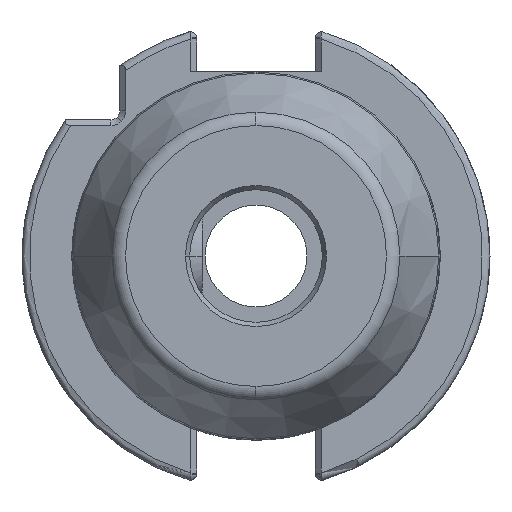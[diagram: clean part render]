
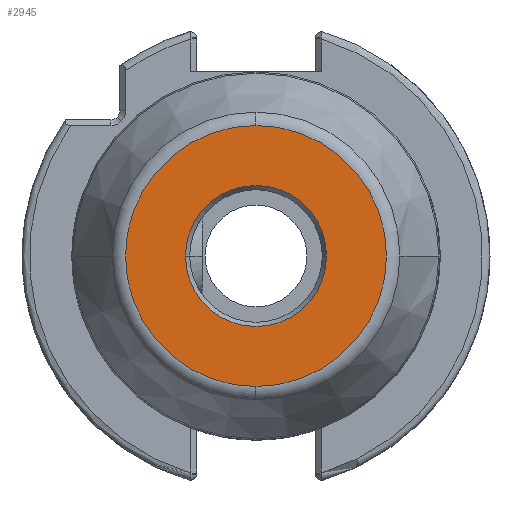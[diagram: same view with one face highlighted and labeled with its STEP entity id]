
A CAD part, front view. The second image highlights one B-rep face of the part: STEP entity #2945.
In plain terms, the highlighted planar face has unit normal (0, -1, 0).
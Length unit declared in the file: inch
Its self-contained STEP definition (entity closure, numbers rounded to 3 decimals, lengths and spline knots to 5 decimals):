
#109 = CIRCLE ( 'NONE', #9228, 0.37706 ) ;
#121 = VERTEX_POINT ( 'NONE', #6367 ) ;
#214 = DIRECTION ( 'NONE',  ( -1., 0., 0. ) ) ;
#231 = EDGE_CURVE ( 'NONE', #6963, #7251, #8860, .T. ) ;
#272 = CARTESIAN_POINT ( 'NONE',  ( -0.37706, -2.48031, 0. ) ) ;
#681 = EDGE_CURVE ( 'NONE', #7251, #6963, #109, .T. ) ;
#1087 = ORIENTED_EDGE ( 'NONE', *, *, #231, .F. ) ;
#1401 = CARTESIAN_POINT ( 'NONE',  ( 0., -2.48031, 0. ) ) ;
#1529 = CARTESIAN_POINT ( 'NONE',  ( 0., -2.48031, -0.69787 ) ) ;
#1586 = AXIS2_PLACEMENT_3D ( 'NONE', #8946, #5486, #214 ) ;
#1833 = ORIENTED_EDGE ( 'NONE', *, *, #3658, .F. ) ;
#2335 = AXIS2_PLACEMENT_3D ( 'NONE', #8098, #8754, #5412 ) ;
#2447 = DIRECTION ( 'NONE',  ( 0., -1., 0. ) ) ;
#2945 = ADVANCED_FACE ( 'NONE', ( #6675, #6012 ), #5958, .T. ) ;
#3658 = EDGE_CURVE ( 'NONE', #121, #8586, #9083, .T. ) ;
#5412 = DIRECTION ( 'NONE',  ( -1., 0., 0. ) ) ;
#5486 = DIRECTION ( 'NONE',  ( 0., -1., 0. ) ) ;
#5765 = DIRECTION ( 'NONE',  ( 0., 1., 0. ) ) ;
#5871 = ORIENTED_EDGE ( 'NONE', *, *, #8527, .F. ) ;
#5958 = PLANE ( 'NONE',  #6764 ) ;
#6012 = FACE_OUTER_BOUND ( 'NONE', #10696, .T. ) ;
#6367 = CARTESIAN_POINT ( 'NONE',  ( 0., -2.48031, 0.69787 ) ) ;
#6675 = FACE_BOUND ( 'NONE', #6927, .T. ) ;
#6764 = AXIS2_PLACEMENT_3D ( 'NONE', #10661, #8576, #7254 ) ;
#6810 = DIRECTION ( 'NONE',  ( -1., 0., 0. ) ) ;
#6927 = EDGE_LOOP ( 'NONE', ( #7749, #1087 ) ) ;
#6963 = VERTEX_POINT ( 'NONE', #9366 ) ;
#7095 = CIRCLE ( 'NONE', #2335, 0.69787 ) ;
#7102 = AXIS2_PLACEMENT_3D ( 'NONE', #1401, #5765, #10577 ) ;
#7251 = VERTEX_POINT ( 'NONE', #272 ) ;
#7254 = DIRECTION ( 'NONE',  ( -1., 0., 0. ) ) ;
#7749 = ORIENTED_EDGE ( 'NONE', *, *, #681, .F. ) ;
#8098 = CARTESIAN_POINT ( 'NONE',  ( 0., -2.48031, 0. ) ) ;
#8527 = EDGE_CURVE ( 'NONE', #8586, #121, #7095, .T. ) ;
#8576 = DIRECTION ( 'NONE',  ( 0., -1., 0. ) ) ;
#8586 = VERTEX_POINT ( 'NONE', #1529 ) ;
#8754 = DIRECTION ( 'NONE',  ( 0., 1., 0. ) ) ;
#8860 = CIRCLE ( 'NONE', #1586, 0.37706 ) ;
#8946 = CARTESIAN_POINT ( 'NONE',  ( 0., -2.48031, 0. ) ) ;
#9083 = CIRCLE ( 'NONE', #7102, 0.69787 ) ;
#9228 = AXIS2_PLACEMENT_3D ( 'NONE', #10259, #2447, #6810 ) ;
#9366 = CARTESIAN_POINT ( 'NONE',  ( 0.37706, -2.48031, 0. ) ) ;
#10259 = CARTESIAN_POINT ( 'NONE',  ( 0., -2.48031, 0. ) ) ;
#10577 = DIRECTION ( 'NONE',  ( -1., 0., 0. ) ) ;
#10661 = CARTESIAN_POINT ( 'NONE',  ( 0., -2.48031, 0. ) ) ;
#10696 = EDGE_LOOP ( 'NONE', ( #5871, #1833 ) ) ;
